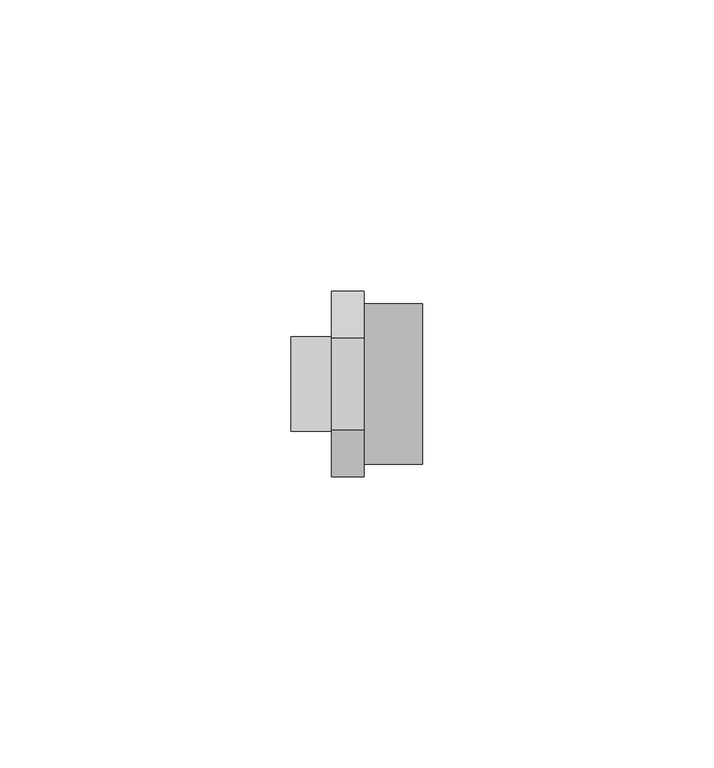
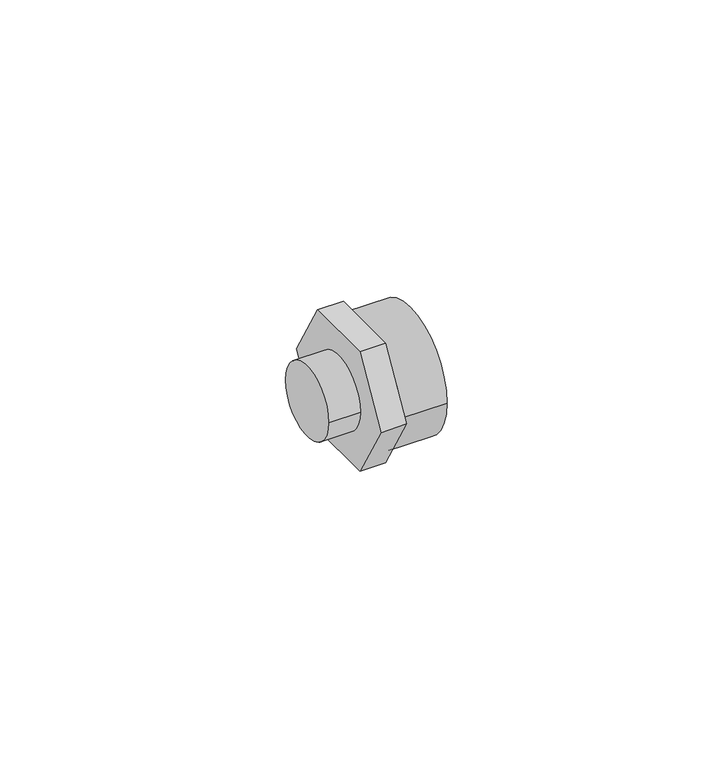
"""IFC4 building model written with IfcOpenShell, lengths in millimetres: pipe fitting geometry, 01101006 : Uniões de redução F/M."""

from ifc_helpers import new_model, si_unit, point, frame, origin, origin_2d, place, context, project, spatial, polyline, circle_curve, trimmed, segment, composite_curve, outline, extrude, source, transform, mapped, element, save


def pipe_fitting_ba3656e1(model_context):
    return source(origin(), model_context, "Body", "SweptSolid", [
        extrude(outline(composite_curve([segment(trimmed(circle_curve(origin_2d(), 8.125), [point((8.125, 0.0))], [point((-8.125, 0.0))], False, "CARTESIAN"), True, "CONTINUOUS"), segment(trimmed(circle_curve(origin_2d(), 8.125), [point((-8.125, 0.0))], [point((8.125, 0.0))], False, "CARTESIAN"), True, "CONTINUOUS")], self_intersect=False)), frame((0.0, 0.0, 0.0), z_axis=(1.0, 0.0, 0.0), x_axis=(0.0, 1.0, 0.0)), (0.0, 0.0, 1.0), 6.875),
        extrude(outline(polyline([(-7.9385662, 13.75), (7.9385662, 13.75), (15.8771324, 0.0), (7.9385662, -13.75), (-7.9385662, -13.75), (-15.8771324, 0.0), (-7.9385662, 13.75)])), frame((6.875, 0.0, 0.0), z_axis=(1.0, 0.0, 0.0), x_axis=(0.0, 1.0, 0.0)), (0.0, 0.0, 1.0), 5.625),
        extrude(outline(composite_curve([segment(trimmed(circle_curve(origin_2d(), 13.75), [point((-13.75, 0.0))], [point((13.75, 0.0))], False, "CARTESIAN"), True, "CONTINUOUS"), segment(trimmed(circle_curve(origin_2d(), 13.75), [point((13.75, 0.0))], [point((-13.75, 0.0))], False, "CARTESIAN"), True, "CONTINUOUS")], self_intersect=False)), frame((12.5, 0.0, 0.0), z_axis=(1.0, 0.0, 0.0), x_axis=(0.0, 1.0, 0.0)), (0.0, 0.0, 1.0), 10.0),
    ])


if __name__ == "__main__":
    model = new_model("IFC4")
    model_context = context("Model", 3, world=origin())
    ifc_project = project(units=[si_unit("LENGTHUNIT", "METRE", prefix="MILLI")], contexts=[model_context])
    site = spatial("IfcSite", under=ifc_project)
    building = spatial("IfcBuilding", under=site)
    placement = place(None, origin())
    pipe_fitting_shape = pipe_fitting_ba3656e1(model_context)
    element("IfcPipeFitting", 1, ObjectType="01101006 : Uniões de redução F/M", at=placement, inside=building, context=model_context, shape_type="MappedRepresentation", body=[
        mapped(pipe_fitting_shape, transform((0.0, 0.0, 0.0), x_axis=(1.0, 0.0, 0.0), y_axis=(0.0, 1.0, 0.0), z_axis=(0.0, 0.0, 1.0))),
    ])
    save(model, "model.ifc")
